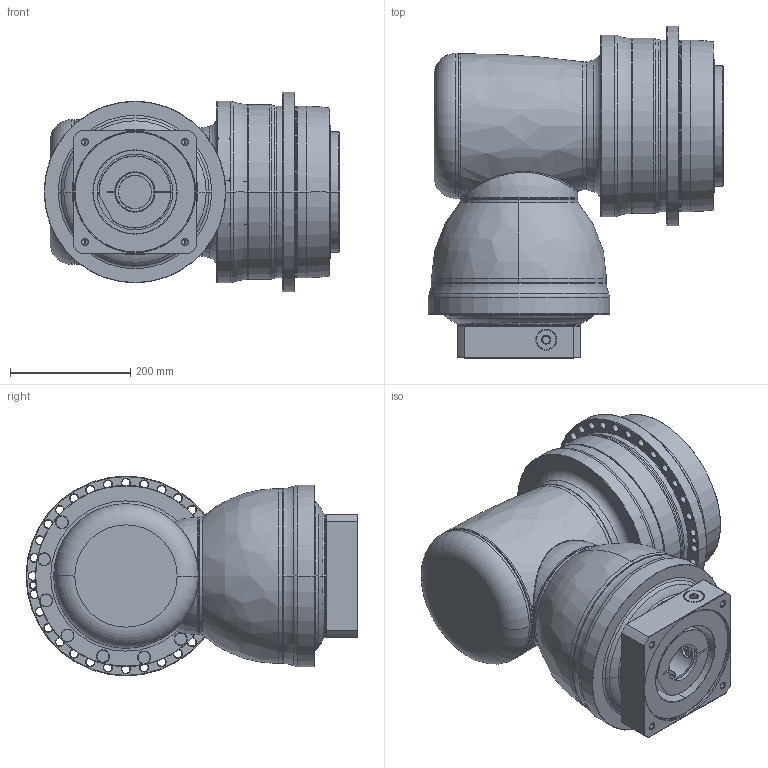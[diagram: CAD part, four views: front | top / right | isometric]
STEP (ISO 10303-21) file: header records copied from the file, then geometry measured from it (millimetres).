
FILE_DESCRIPTION((''),'2;1');
FILE_NAME('APK285_2ST_SBG_55-P0409C00201_ASM','2018-10-30T',('d01226'),(''),'PRO/ENGINEER BY PARAMETRIC TECHNOLOGY CORPORATION, 2015240','PRO/ENGINEER BY PARAMETRIC TECHNOLOGY CORPORATION, 2015240','');
FILE_SCHEMA(('CONFIG_CONTROL_DESIGN'));
Length unit declared in the file: millimetre
Products named in the file (13): P0278801003; P0359801103; P1211800001; P1802810001; P1018800002; P1365800001; P1007801001; P1318810401; P0503C00016; P0912804001; P0409C00201; 21711426021; APK285_2ST_SBG_55-P0409C00201_ASM
Assembly tree (12 placements, depth 2):
  APK285_2ST_SBG_55-P0409C00201_ASM
    P0278801003
    P0359801103
    P1211800001
    P1802810001
    P1018800002
    P1365800001
    P1007801001
    P1318810401
    P0503C00016
    P0912804001
    P0409C00201
    21711426021
Bounding box: 491.5 x 551.5 x 332 mm (x, y, z)
Volume: 39086818.5 mm3; surface area: 2063787.8 mm2
Topology: 13 solids, 36 shells, 913 faces, 2063 edges, 1248 vertices
Faces by surface type: cylinder 368, cone 272, plane 152, torus 90, bspline 30, sphere 1
Entity records: 32102 total; most frequent: CARTESIAN_POINT 10769, DIRECTION 4933, ORIENTED_EDGE 3960, AXIS2_PLACEMENT_3D 2113, EDGE_CURVE 2027, VERTEX_POINT 1248, CIRCLE 1193, EDGE_LOOP 1105
